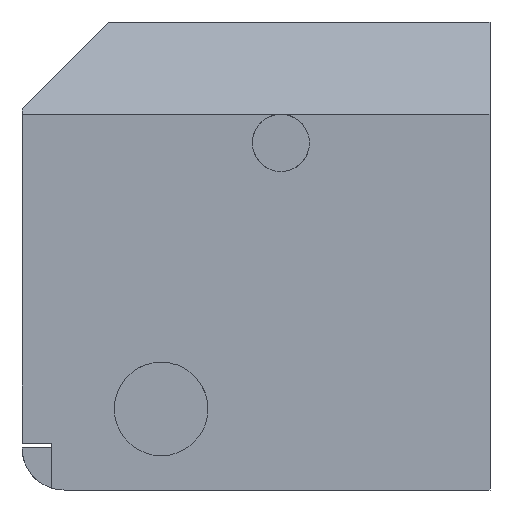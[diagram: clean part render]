
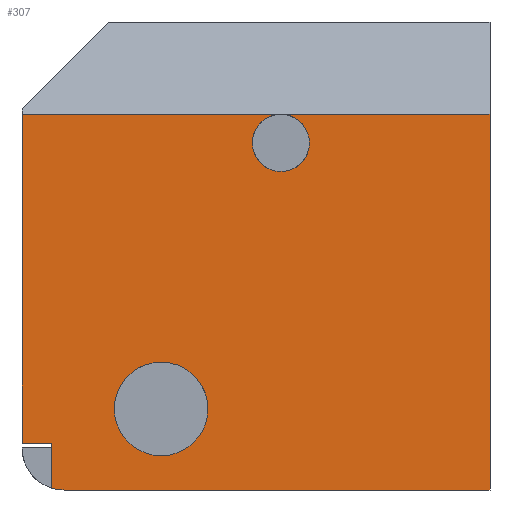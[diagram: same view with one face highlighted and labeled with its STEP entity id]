
A CAD part, front view. The second image highlights one B-rep face of the part: STEP entity #307.
In plain terms, the highlighted planar face has unit normal (0, -1, 0).
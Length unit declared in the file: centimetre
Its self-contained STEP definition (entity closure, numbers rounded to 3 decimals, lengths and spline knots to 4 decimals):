
#7 = LINE ( 'NONE', #846, #737 ) ;
#10 = ORIENTED_EDGE ( 'NONE', *, *, #907, .T. ) ;
#14 = DIRECTION ( 'NONE',  ( 0., 1., 0. ) ) ;
#15 = CARTESIAN_POINT ( 'NONE',  ( 0., 0., 100.1181 ) ) ;
#16 = CARTESIAN_POINT ( 'NONE',  ( 89.9445, 0., 0. ) ) ;
#45 = EDGE_CURVE ( 'NONE', #913, #103, #200, .T. ) ;
#48 = VERTEX_POINT ( 'NONE', #418 ) ;
#56 = DIRECTION ( 'NONE',  ( 0., 0., -1. ) ) ;
#66 = ORIENTED_EDGE ( 'NONE', *, *, #701, .T. ) ;
#67 = EDGE_CURVE ( 'NONE', #242, #879, #431, .T. ) ;
#72 = EDGE_CURVE ( 'NONE', #768, #48, #906, .T. ) ;
#82 = DIRECTION ( 'NONE',  ( 0., -1., 0. ) ) ;
#90 = LINE ( 'NONE', #15, #449 ) ;
#92 = ORIENTED_EDGE ( 'NONE', *, *, #45, .T. ) ;
#98 = VERTEX_POINT ( 'NONE', #203 ) ;
#103 = VERTEX_POINT ( 'NONE', #429 ) ;
#150 = VECTOR ( 'NONE', #707, 100. ) ;
#159 = DIRECTION ( 'NONE',  ( 1., 0., 0. ) ) ;
#160 = DIRECTION ( 'NONE',  ( 0., 0., 1. ) ) ;
#161 = CARTESIAN_POINT ( 'NONE',  ( 551.1498, 0., 802.7505 ) ) ;
#168 = CARTESIAN_POINT ( 'NONE',  ( 0., 0., 1000. ) ) ;
#172 = ORIENTED_EDGE ( 'NONE', *, *, #962, .F. ) ;
#180 = DIRECTION ( 'NONE',  ( 0., -1., 0. ) ) ;
#184 = EDGE_CURVE ( 'NONE', #48, #768, #482, .T. ) ;
#200 = LINE ( 'NONE', #657, #719 ) ;
#203 = CARTESIAN_POINT ( 'NONE',  ( 555.2194, 0., 802.7505 ) ) ;
#208 = VECTOR ( 'NONE', #352, 100. ) ;
#242 = VERTEX_POINT ( 'NONE', #607 ) ;
#264 = ORIENTED_EDGE ( 'NONE', *, *, #835, .F. ) ;
#271 = CARTESIAN_POINT ( 'NONE',  ( 297.284, 0., 173.2705 ) ) ;
#281 = CARTESIAN_POINT ( 'NONE',  ( 0., 0., 1000. ) ) ;
#289 = CARTESIAN_POINT ( 'NONE',  ( 297.284, 0., 173.2705 ) ) ;
#307 = ADVANCED_FACE ( 'NONE', ( #319, #779 ), #541, .F. ) ;
#309 = VECTOR ( 'NONE', #56, 100. ) ;
#314 = CARTESIAN_POINT ( 'NONE',  ( 1000., 0., 0. ) ) ;
#319 = FACE_BOUND ( 'NONE', #706, .T. ) ;
#352 = DIRECTION ( 'NONE',  ( 0., 0., -1. ) ) ;
#360 = VECTOR ( 'NONE', #976, 100. ) ;
#361 = AXIS2_PLACEMENT_3D ( 'NONE', #385, #180, #703 ) ;
#378 = CIRCLE ( 'NONE', #464, 89.9445 ) ;
#385 = CARTESIAN_POINT ( 'NONE',  ( 553.1846, 0., 741.7126 ) ) ;
#389 = CARTESIAN_POINT ( 'NONE',  ( 297.284, 0., 273.2814 ) ) ;
#399 = VERTEX_POINT ( 'NONE', #16 ) ;
#405 = VERTEX_POINT ( 'NONE', #557 ) ;
#408 = EDGE_LOOP ( 'NONE', ( #66, #264, #789, #621, #484, #420, #10, #826, #172, #92 ) ) ;
#418 = CARTESIAN_POINT ( 'NONE',  ( 297.284, 0., 73.2596 ) ) ;
#420 = ORIENTED_EDGE ( 'NONE', *, *, #67, .F. ) ;
#429 = CARTESIAN_POINT ( 'NONE',  ( 0., 0., 802.7505 ) ) ;
#431 = LINE ( 'NONE', #654, #208 ) ;
#436 = LINE ( 'NONE', #670, #360 ) ;
#449 = VECTOR ( 'NONE', #472, 100. ) ;
#459 = ORIENTED_EDGE ( 'NONE', *, *, #184, .F. ) ;
#464 = AXIS2_PLACEMENT_3D ( 'NONE', #953, #662, #574 ) ;
#472 = DIRECTION ( 'NONE',  ( -1., 0., 0. ) ) ;
#482 = CIRCLE ( 'NONE', #609, 100.0109 ) ;
#484 = ORIENTED_EDGE ( 'NONE', *, *, #792, .T. ) ;
#485 = EDGE_CURVE ( 'NONE', #405, #399, #378, .T. ) ;
#541 = PLANE ( 'NONE',  #545 ) ;
#543 = DIRECTION ( 'NONE',  ( 0., 0., -1. ) ) ;
#545 = AXIS2_PLACEMENT_3D ( 'NONE', #168, #14, #160 ) ;
#557 = CARTESIAN_POINT ( 'NONE',  ( 62.5269, 0., 4.2807 ) ) ;
#574 = DIRECTION ( 'NONE',  ( 0., 0., 1. ) ) ;
#576 = VERTEX_POINT ( 'NONE', #881 ) ;
#606 = LINE ( 'NONE', #281, #309 ) ;
#607 = CARTESIAN_POINT ( 'NONE',  ( 1000., 0., 802.7505 ) ) ;
#609 = AXIS2_PLACEMENT_3D ( 'NONE', #289, #671, #977 ) ;
#619 = CIRCLE ( 'NONE', #361, 61.0718 ) ;
#621 = ORIENTED_EDGE ( 'NONE', *, *, #485, .T. ) ;
#623 = CARTESIAN_POINT ( 'NONE',  ( 0., 0., 100.1181 ) ) ;
#625 = LINE ( 'NONE', #923, #150 ) ;
#640 = CIRCLE ( 'NONE', #754, 61.0718 ) ;
#654 = CARTESIAN_POINT ( 'NONE',  ( 1000., 0., 1000. ) ) ;
#657 = CARTESIAN_POINT ( 'NONE',  ( 0., 0., 802.7505 ) ) ;
#662 = DIRECTION ( 'NONE',  ( 0., -1., 0. ) ) ;
#670 = CARTESIAN_POINT ( 'NONE',  ( 62.5269, 0., 0. ) ) ;
#671 = DIRECTION ( 'NONE',  ( 0., -1., 0. ) ) ;
#688 = VERTEX_POINT ( 'NONE', #747 ) ;
#701 = EDGE_CURVE ( 'NONE', #103, #795, #606, .T. ) ;
#703 = DIRECTION ( 'NONE',  ( 0., 0., -1. ) ) ;
#706 = EDGE_LOOP ( 'NONE', ( #459, #938 ) ) ;
#707 = DIRECTION ( 'NONE',  ( -1., 0., 0. ) ) ;
#719 = VECTOR ( 'NONE', #957, 100. ) ;
#721 = DIRECTION ( 'NONE',  ( 0., -1., 0. ) ) ;
#728 = DIRECTION ( 'NONE',  ( 0., 0., -1. ) ) ;
#737 = VECTOR ( 'NONE', #159, 100. ) ;
#740 = EDGE_CURVE ( 'NONE', #405, #688, #436, .T. ) ;
#747 = CARTESIAN_POINT ( 'NONE',  ( 62.5269, 0., 100.1181 ) ) ;
#754 = AXIS2_PLACEMENT_3D ( 'NONE', #773, #82, #543 ) ;
#768 = VERTEX_POINT ( 'NONE', #389 ) ;
#773 = CARTESIAN_POINT ( 'NONE',  ( 553.1846, 0., 741.7126 ) ) ;
#779 = FACE_OUTER_BOUND ( 'NONE', #408, .T. ) ;
#789 = ORIENTED_EDGE ( 'NONE', *, *, #740, .F. ) ;
#792 = EDGE_CURVE ( 'NONE', #399, #879, #7, .T. ) ;
#795 = VERTEX_POINT ( 'NONE', #623 ) ;
#819 = AXIS2_PLACEMENT_3D ( 'NONE', #271, #721, #728 ) ;
#826 = ORIENTED_EDGE ( 'NONE', *, *, #844, .F. ) ;
#835 = EDGE_CURVE ( 'NONE', #688, #795, #90, .T. ) ;
#844 = EDGE_CURVE ( 'NONE', #576, #98, #619, .T. ) ;
#846 = CARTESIAN_POINT ( 'NONE',  ( 0., 0., 0. ) ) ;
#879 = VERTEX_POINT ( 'NONE', #314 ) ;
#881 = CARTESIAN_POINT ( 'NONE',  ( 553.1846, 0., 680.6408 ) ) ;
#906 = CIRCLE ( 'NONE', #819, 100.0109 ) ;
#907 = EDGE_CURVE ( 'NONE', #242, #98, #625, .T. ) ;
#913 = VERTEX_POINT ( 'NONE', #161 ) ;
#923 = CARTESIAN_POINT ( 'NONE',  ( 0., 0., 802.7505 ) ) ;
#938 = ORIENTED_EDGE ( 'NONE', *, *, #72, .F. ) ;
#953 = CARTESIAN_POINT ( 'NONE',  ( 89.9445, 0., 89.9445 ) ) ;
#957 = DIRECTION ( 'NONE',  ( -1., 0., 0. ) ) ;
#962 = EDGE_CURVE ( 'NONE', #913, #576, #640, .T. ) ;
#976 = DIRECTION ( 'NONE',  ( 0., 0., 1. ) ) ;
#977 = DIRECTION ( 'NONE',  ( 0., 0., -1. ) ) ;
